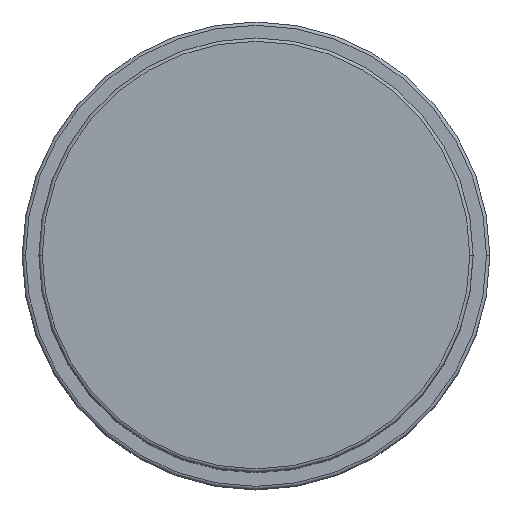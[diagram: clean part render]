
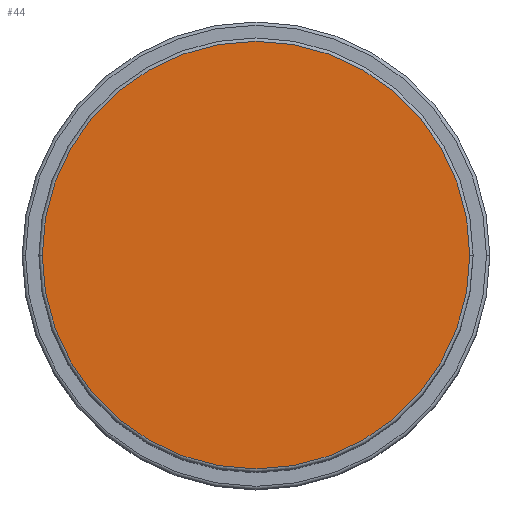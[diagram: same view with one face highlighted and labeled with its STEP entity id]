
A CAD part, top view. The second image highlights one B-rep face of the part: STEP entity #44.
In plain terms, the highlighted planar face has unit normal (0, 0, 1).
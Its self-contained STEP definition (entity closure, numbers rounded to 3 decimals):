
#44 = ADVANCED_FACE ( 'NONE', ( #729 ), #442, .T. ) ;
#207 = CARTESIAN_POINT ( 'NONE',  ( 32., 0., 92. ) ) ;
#228 = DIRECTION ( 'NONE',  ( 0., 0., 1. ) ) ;
#236 = ORIENTED_EDGE ( 'NONE', *, *, #1710, .T. ) ;
#442 = PLANE ( 'NONE',  #1225 ) ;
#504 = EDGE_CURVE ( 'NONE', #1569, #1317, #1564, .T. ) ;
#512 = DIRECTION ( 'NONE',  ( 1., 0., 0. ) ) ;
#540 = DIRECTION ( 'NONE',  ( 0., 0., 1. ) ) ;
#729 = FACE_OUTER_BOUND ( 'NONE', #1524, .T. ) ;
#923 = CARTESIAN_POINT ( 'NONE',  ( -32., 0., 92. ) ) ;
#1038 = AXIS2_PLACEMENT_3D ( 'NONE', #1658, #540, #1216 ) ;
#1068 = CARTESIAN_POINT ( 'NONE',  ( 0., 0., 92. ) ) ;
#1134 = CARTESIAN_POINT ( 'NONE',  ( 0., 0., 92. ) ) ;
#1216 = DIRECTION ( 'NONE',  ( 1., 0., 0. ) ) ;
#1225 = AXIS2_PLACEMENT_3D ( 'NONE', #1134, #1682, #1262 ) ;
#1260 = ORIENTED_EDGE ( 'NONE', *, *, #504, .T. ) ;
#1262 = DIRECTION ( 'NONE',  ( 1., 0., 0. ) ) ;
#1317 = VERTEX_POINT ( 'NONE', #207 ) ;
#1524 = EDGE_LOOP ( 'NONE', ( #236, #1260 ) ) ;
#1554 = CIRCLE ( 'NONE', #1711, 32. ) ;
#1564 = CIRCLE ( 'NONE', #1038, 32. ) ;
#1569 = VERTEX_POINT ( 'NONE', #923 ) ;
#1658 = CARTESIAN_POINT ( 'NONE',  ( 0., 0., 92. ) ) ;
#1682 = DIRECTION ( 'NONE',  ( 0., 0., 1. ) ) ;
#1710 = EDGE_CURVE ( 'NONE', #1317, #1569, #1554, .T. ) ;
#1711 = AXIS2_PLACEMENT_3D ( 'NONE', #1068, #228, #512 ) ;
